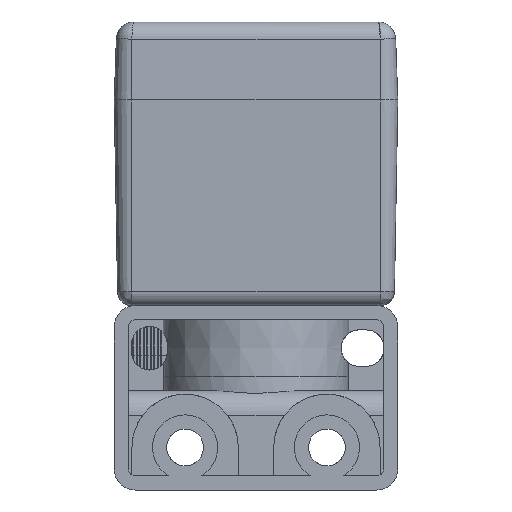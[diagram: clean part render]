
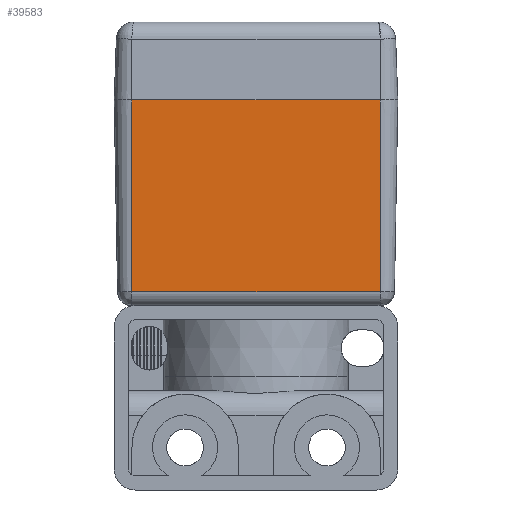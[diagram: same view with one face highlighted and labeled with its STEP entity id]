
A CAD part, front view. The second image highlights one B-rep face of the part: STEP entity #39583.
In plain terms, the highlighted planar face has unit normal (0, -1, -0.018).
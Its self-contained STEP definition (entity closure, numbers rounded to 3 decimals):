
#11919 = FACE_OUTER_BOUND ( 'NONE', #26613, .T. ) ;
#12239 = CARTESIAN_POINT ( 'NONE',  ( 17.647, -19.528, -12.535 ) ) ;
#12242 = CARTESIAN_POINT ( 'NONE',  ( -17.5, -8729.824, 499000. ) ) ;
#12253 = CARTESIAN_POINT ( 'NONE',  ( 17.5, -8729.824, 499000. ) ) ;
#12257 = DIRECTION ( 'NONE',  ( 0., -0.017, 1. ) ) ;
#12259 = CARTESIAN_POINT ( 'NONE',  ( 0., -20., 14.5 ) ) ;
#12261 = DIRECTION ( 'NONE',  ( -1., 0., 0. ) ) ;
#12266 = DIRECTION ( 'NONE',  ( 0., 0.017, -1. ) ) ;
#12270 = DIRECTION ( 'NONE',  ( 1., 0., 0. ) ) ;
#17691 = AXIS2_PLACEMENT_3D ( 'NONE', #19807, #19809, #19811 ) ;
#19763 = PLANE ( 'NONE',  #17691 ) ;
#19807 = CARTESIAN_POINT ( 'NONE',  ( -20., -20., 14.5 ) ) ;
#19809 = DIRECTION ( 'NONE',  ( 0., -1., -0.017 ) ) ;
#19811 = DIRECTION ( 'NONE',  ( 0., 0.017, -1. ) ) ;
#25702 = VERTEX_POINT ( 'NONE', #27744 ) ;
#25704 = VERTEX_POINT ( 'NONE', #27746 ) ;
#25705 = VERTEX_POINT ( 'NONE', #27747 ) ;
#25711 = VERTEX_POINT ( 'NONE', #27753 ) ;
#26613 = EDGE_LOOP ( 'NONE', ( #64823, #64825, #64827, #64829 ) ) ;
#27744 = CARTESIAN_POINT ( 'NONE',  ( 17.5, -20., 14.5 ) ) ;
#27746 = CARTESIAN_POINT ( 'NONE',  ( -17.5, -20., 14.5 ) ) ;
#27747 = CARTESIAN_POINT ( 'NONE',  ( 17.5, -19.528, -12.535 ) ) ;
#27753 = CARTESIAN_POINT ( 'NONE',  ( -17.5, -19.528, -12.535 ) ) ;
#30985 = EDGE_CURVE ( 'NONE', #25711, #25704, #55815, .T. ) ;
#30986 = EDGE_CURVE ( 'NONE', #25705, #25711, #55822, .T. ) ;
#30987 = EDGE_CURVE ( 'NONE', #25702, #25705, #55824, .T. ) ;
#30988 = EDGE_CURVE ( 'NONE', #25704, #25702, #55826, .T. ) ;
#39583 = ADVANCED_FACE ( 'NONE', ( #11919 ), #19763, .T. ) ;
#55815 = LINE ( 'NONE', #12242, #55825 ) ;
#55822 = LINE ( 'NONE', #12239, #55827 ) ;
#55824 = LINE ( 'NONE', #12253, #55829 ) ;
#55825 = VECTOR ( 'NONE', #12257, 1000. ) ;
#55826 = LINE ( 'NONE', #12259, #55831 ) ;
#55827 = VECTOR ( 'NONE', #12261, 1000. ) ;
#55829 = VECTOR ( 'NONE', #12266, 1000. ) ;
#55831 = VECTOR ( 'NONE', #12270, 1000. ) ;
#64823 = ORIENTED_EDGE ( 'NONE', *, *, #30985, .F. ) ;
#64825 = ORIENTED_EDGE ( 'NONE', *, *, #30986, .F. ) ;
#64827 = ORIENTED_EDGE ( 'NONE', *, *, #30987, .F. ) ;
#64829 = ORIENTED_EDGE ( 'NONE', *, *, #30988, .F. ) ;
